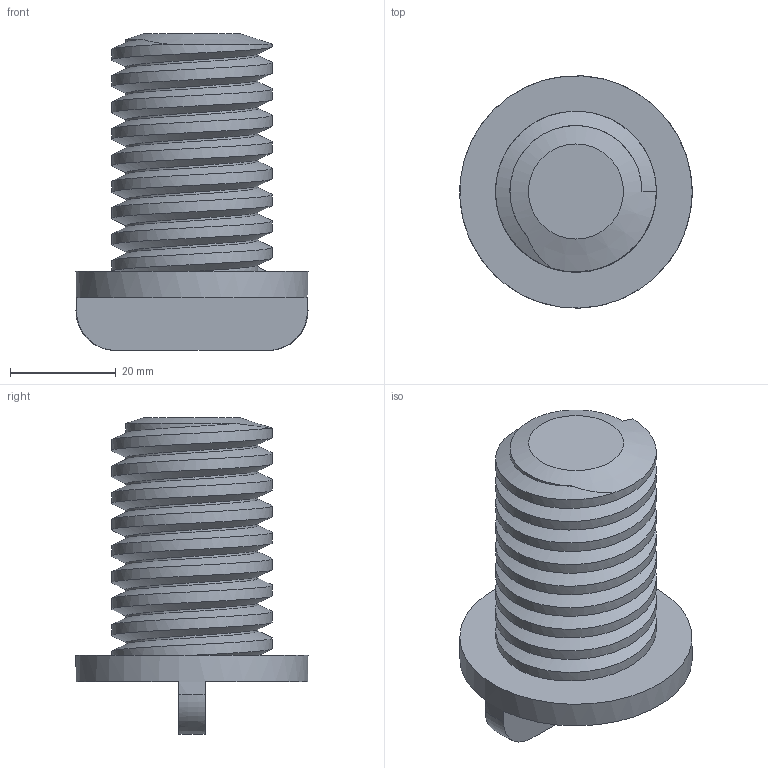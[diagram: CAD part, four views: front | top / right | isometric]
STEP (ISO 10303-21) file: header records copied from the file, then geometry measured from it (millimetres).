
FILE_DESCRIPTION(/* description */ ('STEP AP242 Edition 2','CAx-IF Rec.Pracs.---Representation and Presentation of Product Manufacturing Information (PMI)---4.0---2014-10-13','CAx-IF Rec.Pracs.---3D Tessellated Geometry---0.4---2014-09-14','2;1','CAx-IF Rec.Pracs.---User Defined Attributes---1.5---2016-08-15'),/* implementation_level */ '2;1');
FILE_NAME(/* name */ 'Assembly 1 - Screw 2',/* time_stamp */ '2026-06-23T19:13:03Z',/* author */ (''),/* organization */ (''),/* preprocessor_version */ 'ST-DEVELOPER v20',/* originating_system */ 'ONSHAPE BY PTC INC, 1.216',/* authorisation */ ' ');
FILE_SCHEMA (('AP242_MANAGED_MODEL_BASED_3D_ENGINEERING_MIM_LF { 1 0 10303 442 3 1 4 }'));
Length unit declared in the file: metre
Products named in the file (1): Screw 2
Bounding box: 43.98 x 43.96 x 60 mm (x, y, z)
Volume: 37594.3 mm3; surface area: 10933.9 mm2
Topology: 1 solids, 1 shells, 17 faces, 42 edges, 28 vertices
Faces by surface type: plane 9, cylinder 3, bspline 2, torus 2, cone 1
Full cylindrical faces by diameter (mm): 44 x1
Entity records: 1365 total; most frequent: CARTESIAN_POINT 979, ORIENTED_EDGE 76, DIRECTION 71, EDGE_CURVE 38, AXIS2_PLACEMENT_3D 28, VERTEX_POINT 26, EDGE_LOOP 20, FACE_BOUND 20
